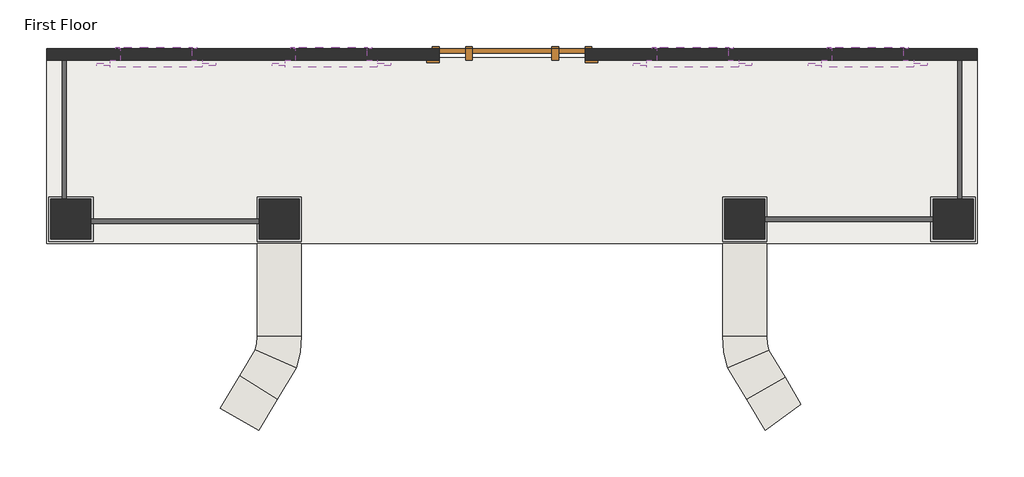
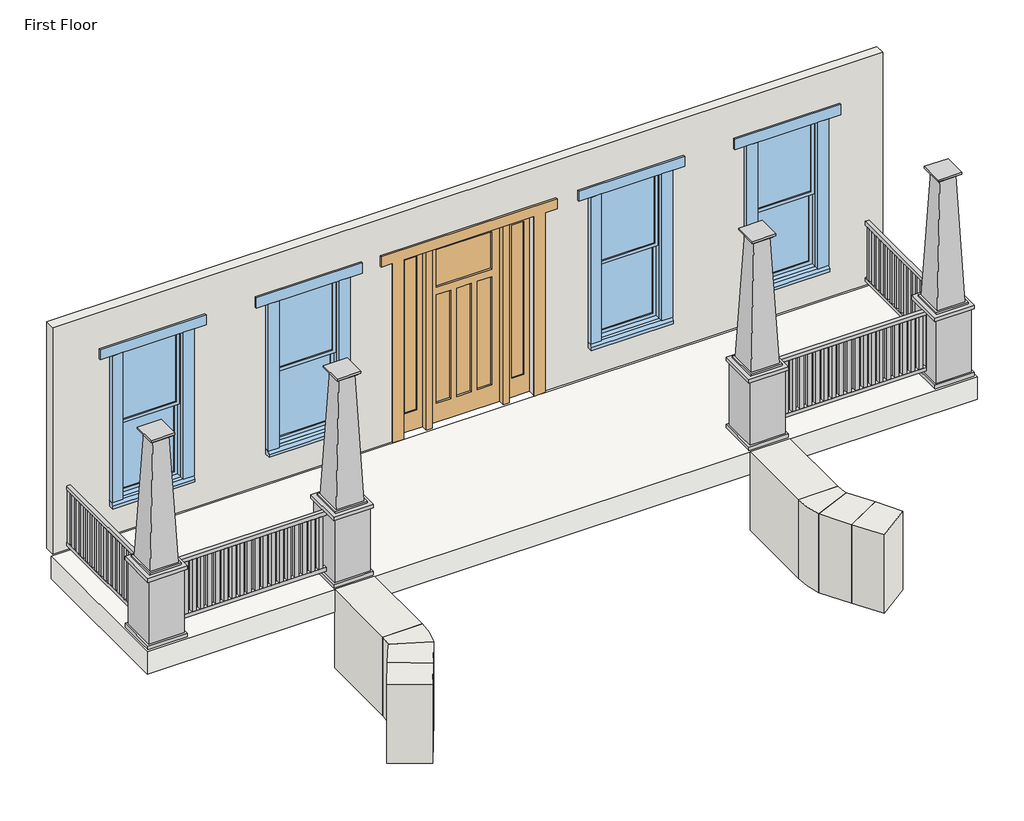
# One storey: 9 walls, 4 columns, 4 windows, 2 railings, 1 door, 1 slab.
"""IFC4 building model written with IfcOpenShell, lengths in millimetres."""

from ifc_helpers import new_model, si_unit, point, frame, frame_2d, origin, origin_with_axes, place, context, project, spatial, polyline, circle_curve, trimmed, segment, composite_curve, outline, extrude, faceted_brep, transform, mapped, element, save
from components import craftsman_column_9_d8d15924, craftsman_column_9_ca342625, craftsman_entry_with_sidelights_8_30x80_eab3a492, railing_5c745c90, railing_c8e79896, craftsman_double_hung_side_28x68_75aaf5e2, craftsman_double_hung_side_28x68_9c575d6a

model = new_model("IFC4")

# Units and contexts
model_context = context("Model", 3, world=origin())
ifc_project = project(units=[si_unit("LENGTHUNIT", "METRE", prefix="MILLI")], contexts=[model_context])

# Site, building, storey
site = spatial("IfcSite", under=ifc_project)
building = spatial("IfcBuilding", under=site)
storey = spatial("IfcBuildingStorey", under=building, Name="First Floor", Elevation=0.0)

# Columns
placement = place(None, origin())
craftsman_column_9_shape = craftsman_column_9_d8d15924(model_context)
element("IfcColumn", 1, ObjectType="craftsman_column_9' : craftsman column download", at=placement, inside=storey, context=model_context, shape_type="MappedRepresentation", body=[
    mapped(craftsman_column_9_shape, transform((14499.1169554, -7091.5869756, 0.0), x_axis=(1.0, 0.0, 0.0), y_axis=(0.0, 1.0, 0.0), z_axis=(0.0, 0.0, 1.0))),
])
element("IfcColumn", 2, ObjectType="craftsman_column_9' : craftsman column download", at=placement, inside=storey, context=model_context, shape_type="MappedRepresentation", body=[
    mapped(craftsman_column_9_shape, transform((16886.7169554, -7091.5869756, 0.0), x_axis=(1.0, 0.0, 0.0), y_axis=(0.0, 1.0, 0.0), z_axis=(0.0, 0.0, 1.0))),
])
craftsman_column_9_2_shape = craftsman_column_9_ca342625(model_context)
element("IfcColumn", 3, ObjectType="craftsman_column_9' : craftsman column download", at=placement, inside=storey, context=model_context, shape_type="MappedRepresentation", body=[
    mapped(craftsman_column_9_2_shape, transform((24608.3169554, -7091.5869756, 0.0), x_axis=(-1.0, 0.0, 0.0), y_axis=(0.0, -1.0, 0.0), z_axis=(0.0, 0.0, 1.0))),
])
element("IfcColumn", 4, ObjectType="craftsman_column_9' : craftsman column download", at=placement, inside=storey, context=model_context, shape_type="MappedRepresentation", body=[
    mapped(craftsman_column_9_2_shape, transform((22220.7169554, -7091.5869756, 0.0), x_axis=(-1.0, 0.0, 0.0), y_axis=(0.0, -1.0, 0.0), z_axis=(0.0, 0.0, 1.0))),
])

# Door
craftsman_entry_with_sidelights_8_30x80_shape = craftsman_entry_with_sidelights_8_30x80_eab3a492(model_context)
element("IfcDoor", 5, ObjectType="craftsman entry with sidelights 8' : 30x80", at=placement, inside=storey, context=model_context, shape_type="MappedRepresentation", body=[
    mapped(craftsman_entry_with_sidelights_8_30x80_shape, transform((19555.8336221, -5202.4619756, 1117.6), x_axis=(-1.0, 0.0, 0.0), y_axis=(0.0, -1.0, 0.0), z_axis=(0.0, 0.0, 1.0))),
])

# Railings
railing_shape = railing_5c745c90(model_context)
element("IfcRailing", 6, ObjectType="creole porch rail", at=placement, inside=storey, context=model_context, shape_type="MappedRepresentation", body=[
    mapped(railing_shape, transform((0.0, 0.0, 0.0), x_axis=(1.0, 0.0, 0.0), y_axis=(0.0, 1.0, 0.0), z_axis=(0.0, 0.0, 1.0))),
])
railing_2_shape = railing_c8e79896(model_context)
element("IfcRailing", 7, ObjectType="creole porch rail", at=placement, inside=storey, context=model_context, shape_type="MappedRepresentation", body=[
    mapped(railing_2_shape, transform((0.0, 0.0, 0.0), x_axis=(1.0, 0.0, 0.0), y_axis=(0.0, 1.0, 0.0), z_axis=(0.0, 0.0, 1.0))),
])

# Slab
element("IfcSlab", 8, ObjectType="creole porch", at=placement, inside=storey, context=model_context, shape_type="SweptSolid", body=[
    extrude(outline(polyline([(24887.7169554, -5237.3869756), (24887.7169554, -7370.9869756), (14219.7169554, -7370.9869756), (14219.7169554, -5237.3869756), (24887.7169554, -5237.3869756)])), frame((0.0, 0.0, 762.0), z_axis=(0.0, 0.0, 1.0), x_axis=(1.0, 0.0, 0.0)), (0.0, 0.0, 1.0), 304.8),
])

# Walls
element("IfcWall", 9, ObjectType="Exterior - Wood Siding on Wood Stud 2x4", at=placement, inside=storey, context=model_context, shape_type="Brep", body=[
    faceted_brep([(14219.7169554, -5135.7869756, 4194.175), (24887.7169554, -5135.7869756, 4194.175), (24887.7169554, -5135.7869756, 1117.6), (20394.0336221, -5135.7869756, 1117.6), (20394.0336221, -5135.7869756, 3556.0), (18717.6336221, -5135.7869756, 3556.0), (18717.6336221, -5135.7869756, 1117.6), (14219.7169554, -5135.7869756, 1117.6), (15070.6169554, -5135.7869756, 3606.8), (15070.6169554, -5135.7869756, 1574.8), (15883.4169554, -5135.7869756, 1574.8), (15883.4169554, -5135.7869756, 3606.8), (17077.2169554, -5135.7869756, 3606.8), (17077.2169554, -5135.7869756, 1574.8), (17890.0169554, -5135.7869756, 1574.8), (17890.0169554, -5135.7869756, 3606.8), (22030.2169554, -5135.7869756, 1574.8), (22030.2169554, -5135.7869756, 3606.8), (21217.4169554, -5135.7869756, 3606.8), (21217.4169554, -5135.7869756, 1574.8), (23224.0169554, -5135.7869756, 3606.8), (23224.0169554, -5135.7869756, 1574.8), (24036.8169554, -5135.7869756, 1574.8), (24036.8169554, -5135.7869756, 3606.8), (24887.7169554, -5269.1369756, 4194.175), (14219.7169554, -5269.1369756, 4194.175), (14219.7169554, -5269.1369756, 4114.8), (14219.7169554, -5269.1369756, 3810.0), (14219.7169554, -5269.1369756, 1117.6), (18717.6336221, -5269.1369756, 1117.6), (18717.6336221, -5269.1369756, 3556.0), (20394.0336221, -5269.1369756, 3556.0), (20394.0336221, -5269.1369756, 1117.6), (24887.7169554, -5269.1369756, 1117.6), (24887.7169554, -5269.1369756, 3810.0), (24887.7169554, -5269.1369756, 4114.8), (15070.6169554, -5269.1369756, 1574.8), (15070.6169554, -5269.1369756, 3606.8), (15883.4169554, -5269.1369756, 3606.8), (15883.4169554, -5269.1369756, 1574.8), (17077.2169554, -5269.1369756, 1574.8), (17077.2169554, -5269.1369756, 3606.8), (17890.0169554, -5269.1369756, 3606.8), (17890.0169554, -5269.1369756, 1574.8), (22030.2169554, -5269.1369756, 3606.8), (22030.2169554, -5269.1369756, 1574.8), (21217.4169554, -5269.1369756, 1574.8), (21217.4169554, -5269.1369756, 3606.8), (23224.0169554, -5269.1369756, 3606.8), (24036.8169554, -5269.1369756, 3606.8), (24036.8169554, -5269.1369756, 1574.8), (23224.0169554, -5269.1369756, 1574.8), (14219.7169554, -5237.3869756, 1117.6), (24887.7169554, -5237.3869756, 1117.6), (18717.6336221, -5237.3869756, 1117.6), (20394.0336221, -5237.3869756, 1117.6)], [[[0, 1, 2, 3, 4, 5, 6, 7], [8, 9, 10, 11], [12, 13, 14, 15], [16, 17, 18, 19], [20, 21, 22, 23]], [[24, 25, 26, 27, 28, 29, 30, 31, 32, 33, 34, 35], [36, 37, 38, 39], [40, 41, 42, 43], [44, 45, 46, 47], [48, 49, 50, 51]], [[1, 0, 25, 24]], [[0, 7, 52, 28, 27, 26, 25]], [[2, 1, 24, 35, 34, 33, 53]], [[52, 7, 6, 54]], [[2, 53, 55, 3]], [[53, 33, 32, 55]], [[28, 52, 54, 29]], [[5, 30, 29, 54, 6]], [[30, 5, 4, 31]], [[31, 4, 3, 55, 32]], [[9, 8, 37, 36]], [[10, 9, 36, 39]], [[11, 10, 39, 38]], [[8, 11, 38, 37]], [[13, 12, 41, 40]], [[14, 13, 40, 43]], [[15, 14, 43, 42]], [[12, 15, 42, 41]], [[44, 17, 16, 45]], [[45, 16, 19, 46]], [[46, 19, 18, 47]], [[17, 44, 47, 18]], [[21, 20, 48, 51]], [[22, 21, 51, 50]], [[23, 22, 50, 49]], [[20, 23, 49, 48]]]),
])
element("IfcWall", 10, ObjectType="Generic - 20\"", at=placement, inside=storey, context=model_context, shape_type="SweptSolid", body=[
    extrude(outline(composite_curve([segment(polyline([(16433.7164202, -8887.0743885), (16864.6496261, -9156.0735931)]), True, "CONTINUOUS"), segment(trimmed(circle_curve(frame_2d((25135.6634863, -14319.0457642)), 9750.1770197), [point((16864.6496261, -9156.0735931))], [point((16652.9025122, -9511.8929507))], True, "CARTESIAN"), True, "CONTINUOUS"), segment(polyline([(16652.9025122, -9511.8929507), (16210.9369391, -9261.4325104)]), True, "CONTINUOUS"), segment(trimmed(circle_curve(frame_2d((25135.6634863, -14319.0457642)), 10258.1770197), [point((16210.9369391, -9261.4325104))], [point((16433.7164202, -8887.0743885))], False, "CARTESIAN"), True, "CONTINUOUS")], self_intersect=False)), origin_with_axes(), (0.0, 0.0, 1.0), 1066.8),
])
element("IfcWall", 11, ObjectType="Generic - 20\"", at=placement, inside=storey, context=model_context, shape_type="SweptSolid", body=[
    extrude(outline(composite_curve([segment(polyline([(16611.8457804, -8590.0102632), (17079.0396503, -8796.3720282)]), True, "CONTINUOUS"), segment(trimmed(circle_curve(frame_2d((8222.2230016, -3761.2563546)), 10188.0121219), [point((17079.0396503, -8796.3720282))], [point((16864.6496261, -9156.0735931))], False, "CARTESIAN"), True, "CONTINUOUS"), segment(polyline([(16864.6496261, -9156.0735931), (16433.7164202, -8887.0743885)]), True, "CONTINUOUS"), segment(trimmed(circle_curve(frame_2d((8222.2230016, -3761.2563546)), 9680.0121219), [point((16433.7164202, -8887.0743885))], [point((16611.8457804, -8590.0102632))], True, "CARTESIAN"), True, "CONTINUOUS")], self_intersect=False)), origin_with_axes(), (0.0, 0.0, 1.0), 1066.8),
])
element("IfcWall", 12, ObjectType="Generic - 20\"", at=placement, inside=storey, context=model_context, shape_type="SweptSolid", body=[
    extrude(outline(composite_curve([segment(polyline([(16632.7169554, -8438.0091467), (17140.7169554, -8438.0091467)]), True, "CONTINUOUS"), segment(trimmed(circle_curve(frame_2d((16068.7825979, -8438.0091467)), 1071.9343575), [point((17140.7169554, -8438.0091467))], [point((17079.0396503, -8796.3720282))], False, "CARTESIAN"), True, "CONTINUOUS"), segment(polyline([(17079.0396503, -8796.3720282), (16611.8457804, -8590.0102632)]), True, "CONTINUOUS"), segment(trimmed(circle_curve(frame_2d((16068.7825979, -8438.0091467)), 563.9343575), [point((16611.8457804, -8590.0102632))], [point((16632.7169554, -8438.0091467))], True, "CARTESIAN"), True, "CONTINUOUS")], self_intersect=False)), origin_with_axes(), (0.0, 0.0, 1.0), 1066.8),
])
element("IfcWall", 13, ObjectType="Generic - 20\"", at=placement, inside=storey, context=model_context, shape_type="SweptSolid", body=[
    extrude(outline(polyline([(17140.7169554, -7370.9869756), (17140.7169554, -8438.0091467), (16632.7169554, -8438.0091467), (16632.7169554, -7370.9869756), (17140.7169554, -7370.9869756)])), origin_with_axes(), (0.0, 0.0, 1.0), 1066.8),
])
element("IfcWall", 14, ObjectType="Generic - 20\"", at=placement, inside=storey, context=model_context, shape_type="SweptSolid", body=[
    extrude(outline(composite_curve([segment(polyline([(22865.4861613, -9213.1047582), (22454.6460269, -9511.8929507)]), True, "CONTINUOUS"), segment(trimmed(circle_curve(frame_2d((24277.3540357, -8186.3076784)), 2253.7614779), [point((22454.6460269, -9511.8929507))], [point((22242.902053, -9156.0735931))], False, "CARTESIAN"), True, "CONTINUOUS"), segment(polyline([(22242.902053, -9156.0735931), (22687.3390001, -8907.0956669)]), True, "CONTINUOUS"), segment(trimmed(circle_curve(frame_2d((24277.3540357, -8186.3076784)), 1745.7614779), [point((22687.3390001, -8907.0956669))], [point((22865.4861613, -9213.1047582))], True, "CARTESIAN"), True, "CONTINUOUS")], self_intersect=False)), origin_with_axes(), (0.0, 0.0, 1.0), 1066.8),
])
element("IfcWall", 15, ObjectType="Generic - 20\"", at=placement, inside=storey, context=model_context, shape_type="SweptSolid", body=[
    extrude(outline(composite_curve([segment(polyline([(22687.3390001, -8907.0956669), (22242.902053, -9156.0735931)]), True, "CONTINUOUS"), segment(trimmed(circle_curve(frame_2d((26231.3739485, -6535.1362751)), 4772.5486363), [point((22242.902053, -9156.0735931))], [point((22028.5138087, -8796.3720282))], False, "CARTESIAN"), True, "CONTINUOUS"), segment(polyline([(22028.5138087, -8796.3720282), (22496.942715, -8594.3590495)]), True, "CONTINUOUS"), segment(trimmed(circle_curve(frame_2d((26231.3739485, -6535.1362751)), 4264.5486363), [point((22496.942715, -8594.3590495))], [point((22687.3390001, -8907.0956669))], True, "CARTESIAN"), True, "CONTINUOUS")], self_intersect=False)), origin_with_axes(), (0.0, 0.0, 1.0), 1066.8),
])
element("IfcWall", 16, ObjectType="Generic - 20\"", at=placement, inside=storey, context=model_context, shape_type="SweptSolid", body=[
    extrude(outline(composite_curve([segment(polyline([(22496.942715, -8594.3590495), (22028.5138087, -8796.3720282)]), True, "CONTINUOUS"), segment(trimmed(circle_curve(frame_2d((23038.7190088, -8438.0091467)), 1071.8854889), [point((22028.5138087, -8796.3720282))], [point((21966.8335199, -8438.0091467))], False, "CARTESIAN"), True, "CONTINUOUS"), segment(polyline([(21966.8335199, -8438.0091467), (22474.8335199, -8438.0091467)]), True, "CONTINUOUS"), segment(trimmed(circle_curve(frame_2d((23038.7190088, -8438.0091467)), 563.8854889), [point((22474.8335199, -8438.0091467))], [point((22496.942715, -8594.3590495))], True, "CARTESIAN"), True, "CONTINUOUS")], self_intersect=False)), origin_with_axes(), (0.0, 0.0, 1.0), 1066.8),
])
element("IfcWall", 17, ObjectType="Generic - 20\"", at=placement, inside=storey, context=model_context, shape_type="SweptSolid", body=[
    extrude(outline(polyline([(21966.8335199, -8438.0091467), (21966.8335199, -7370.9869756), (22474.8335199, -7370.9869756), (22474.8335199, -8438.0091467), (21966.8335199, -8438.0091467)])), origin_with_axes(), (0.0, 0.0, 1.0), 1066.8),
])

# Windows
craftsman_double_hung_side_28x68_shape = craftsman_double_hung_side_28x68_75aaf5e2(model_context)
element("IfcWindow", 18, ObjectType="Craftsman Double Hung Side : 28x68", at=placement, inside=storey, context=model_context, shape_type="MappedRepresentation", body=[
    mapped(craftsman_double_hung_side_28x68_shape, transform((15477.0169554, -5202.4619756, 914.4), x_axis=(-1.0, 0.0, 0.0), y_axis=(0.0, -1.0, 0.0), z_axis=(0.0, 0.0, 1.0))),
])
element("IfcWindow", 19, ObjectType="Craftsman Double Hung Side : 28x68", at=placement, inside=storey, context=model_context, shape_type="MappedRepresentation", body=[
    mapped(craftsman_double_hung_side_28x68_shape, transform((17483.6169554, -5202.4619756, 914.4), x_axis=(-1.0, 0.0, 0.0), y_axis=(0.0, -1.0, 0.0), z_axis=(0.0, 0.0, 1.0))),
])
element("IfcWindow", 20, ObjectType="Craftsman Double Hung Side : 28x68", at=placement, inside=storey, context=model_context, shape_type="MappedRepresentation", body=[
    mapped(craftsman_double_hung_side_28x68_shape, transform((23630.4169554, -5202.4619756, 914.4), x_axis=(-1.0, 0.0, 0.0), y_axis=(0.0, -1.0, 0.0), z_axis=(0.0, 0.0, 1.0))),
])
craftsman_double_hung_side_28x68_2_shape = craftsman_double_hung_side_28x68_9c575d6a(model_context)
element("IfcWindow", 21, ObjectType="Craftsman Double Hung Side : 28x68", at=placement, inside=storey, context=model_context, shape_type="MappedRepresentation", body=[
    mapped(craftsman_double_hung_side_28x68_2_shape, transform((21623.8169554, -5202.4619756, 914.4), x_axis=(1.0, 0.0, 0.0), y_axis=(0.0, 1.0, 0.0), z_axis=(0.0, 0.0, 1.0))),
])

save(model, "model.ifc")
